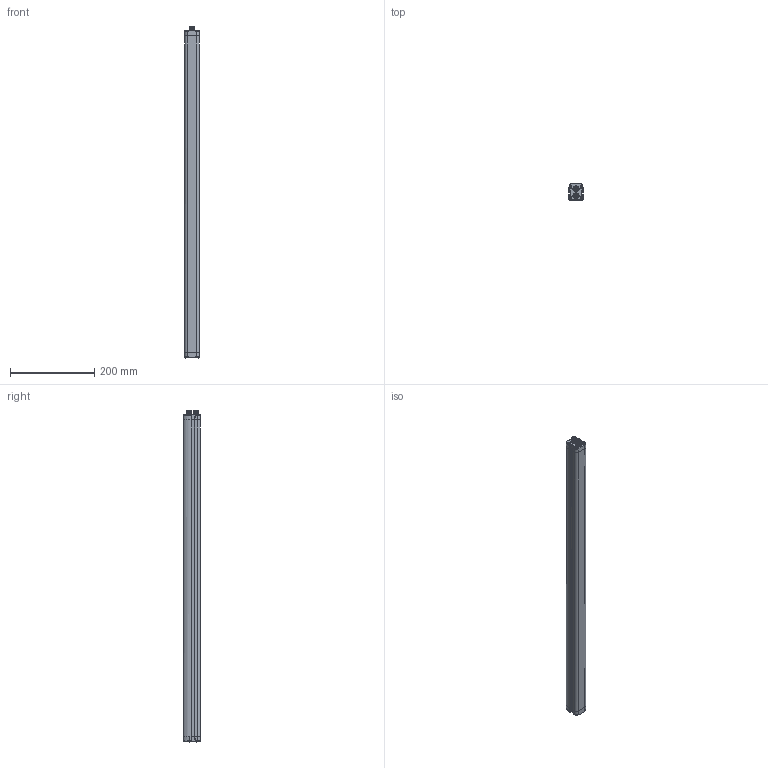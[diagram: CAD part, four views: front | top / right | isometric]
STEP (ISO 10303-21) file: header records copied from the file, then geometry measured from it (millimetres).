
FILE_DESCRIPTION(/* description */ (''),/* implementation_level */ '2;1');
FILE_NAME(/* name */ 'DSD-0985 DS2-05-07-075-JE _RX_STP.stp',/* time_stamp */ '2020-07-02T11:28:47+02:00',/* author */ (''),/* organization */ (''),/* preprocessor_version */ 'ST-DEVELOPER v16.7',/* originating_system */ 'SIEMENS PLM Software NX 12.0',/* authorisation */ '');
FILE_SCHEMA (('AUTOMOTIVE_DESIGN { 1 0 10303 214 3 1 1 1 }'));
Length unit declared in the file: millimetre
Products named in the file (1): fgut3BACA847u44u
Bounding box: 35 x 40 x 786.6 mm (x, y, z)
Volume: 945586.7 mm3; surface area: 151088.3 mm2
Topology: 1 solids, 5 shells, 614 faces, 1592 edges, 1016 vertices
Faces by surface type: plane 220, cylinder 178, bspline 137, cone 61, torus 18
Full cylindrical faces by diameter (mm): 0.8 x8, 1 x4, 3.5 x4, 5 x8, 8.3 x1, 8.45 x1, 10.45 x1, 10.5 x1, 10.55 x2, 12 x14, 14 x2, 14.5 x2
Entity records: 28634 total; most frequent: CARTESIAN_POINT 12328, ORIENTED_EDGE 3066, DIRECTION 1997, EDGE_CURVE 1533, VERTEX_POINT 1007, AXIS2_PLACEMENT_3D 821, B_SPLINE_CURVE_WITH_KNOTS 705, EDGE_LOOP 688
